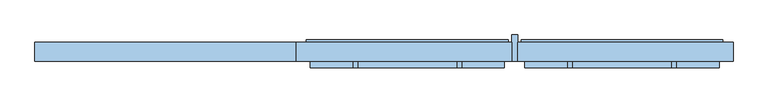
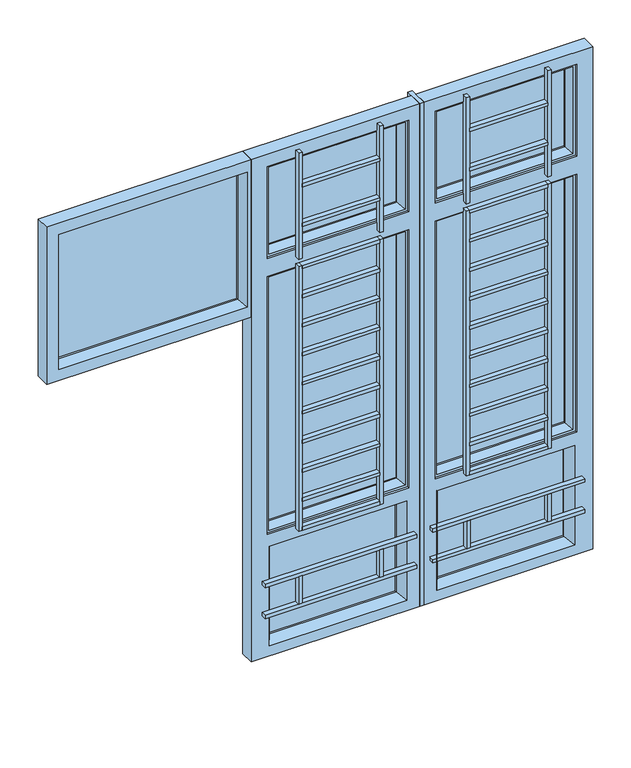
"""IFC4 building model written with IfcOpenShell, lengths in millimetres: window geometry, WDW-CSM-HAA-Type8 : Glass-1170+700+550H."""

from ifc_helpers import new_model, si_unit, frame, origin, place, context, project, spatial, polyline, outline, extrude, faceted_brep, source, transform, mapped, element, save


def window_dd2f97a1(model_context):
    return source(origin(), model_context, "Body", "SolidModel", [
        extrude(outline(polyline([(110.7500001, -33.0), (-155.7499999, -33.0), (-155.7499999, -15.0), (110.7500001, -15.0), (110.7500001, -33.0)])), frame((0.0, 0.0, 2414.1), z_axis=(0.0, 0.0, 1.0), x_axis=(1.0, 0.0, 0.0)), (0.0, 0.0, 1.0), 12.0),
        extrude(outline(polyline([(110.7500001, -33.0), (-155.7499999, -33.0), (-155.7499999, -15.0), (110.7500001, -15.0), (110.7500001, -33.0)])), frame((0.0, 0.0, 2271.1), z_axis=(0.0, 0.0, 1.0), x_axis=(1.0, 0.0, 0.0)), (0.0, 0.0, 1.0), 12.0),
        extrude(outline(polyline([(-155.7499999, -33.0), (-167.7499999, -33.0), (-167.7499999, -15.0), (-155.7499999, -15.0), (-155.7499999, -33.0)])), frame((0.0, 0.0, 2156.1), z_axis=(0.0, 0.0, 1.0), x_axis=(1.0, 0.0, 0.0)), (0.0, 0.0, 1.0), 385.0),
        extrude(outline(polyline([(122.7500001, -33.0), (110.7500001, -33.0), (110.7500001, -15.0), (122.7500001, -15.0), (122.7500001, -33.0)])), frame((0.0, 0.0, 2156.1), z_axis=(0.0, 0.0, 1.0), x_axis=(1.0, 0.0, 0.0)), (0.0, 0.0, 1.0), 385.0),
        extrude(outline(polyline([(110.7500001, -33.0), (-155.7499999, -33.0), (-155.7499999, -15.0), (110.7500001, -15.0), (110.7500001, -33.0)])), frame((0.0, 0.0, 2012.6666667), z_axis=(0.0, 0.0, 1.0), x_axis=(1.0, 0.0, 0.0)), (0.0, 0.0, 1.0), 12.0),
        extrude(outline(polyline([(110.7500001, -33.0), (-155.7499999, -33.0), (-155.7499999, -15.0), (110.7500001, -15.0), (110.7500001, -33.0)])), frame((0.0, 0.0, 1907.3333333), z_axis=(0.0, 0.0, 1.0), x_axis=(1.0, 0.0, 0.0)), (0.0, 0.0, 1.0), 12.0),
        extrude(outline(polyline([(110.7500001, -33.0), (-155.7499999, -33.0), (-155.7499999, -15.0), (110.7500001, -15.0), (110.7500001, -33.0)])), frame((0.0, 0.0, 1802.0), z_axis=(0.0, 0.0, 1.0), x_axis=(1.0, 0.0, 0.0)), (0.0, 0.0, 1.0), 12.0),
        extrude(outline(polyline([(110.7500001, -33.0), (-155.7499999, -33.0), (-155.7499999, -15.0), (110.7500001, -15.0), (110.7500001, -33.0)])), frame((0.0, 0.0, 1696.6666667), z_axis=(0.0, 0.0, 1.0), x_axis=(1.0, 0.0, 0.0)), (0.0, 0.0, 1.0), 12.0),
        extrude(outline(polyline([(110.7500001, -33.0), (-155.7499999, -33.0), (-155.7499999, -15.0), (110.7500001, -15.0), (110.7500001, -33.0)])), frame((0.0, 0.0, 1591.3333333), z_axis=(0.0, 0.0, 1.0), x_axis=(1.0, 0.0, 0.0)), (0.0, 0.0, 1.0), 12.0),
        extrude(outline(polyline([(110.7500001, -33.0), (-155.7499999, -33.0), (-155.7499999, -15.0), (110.7500001, -15.0), (110.7500001, -33.0)])), frame((0.0, 0.0, 1486.0), z_axis=(0.0, 0.0, 1.0), x_axis=(1.0, 0.0, 0.0)), (0.0, 0.0, 1.0), 12.0),
        extrude(outline(polyline([(110.7500001, -33.0), (-155.7499999, -33.0), (-155.7499999, -15.0), (110.7500001, -15.0), (110.7500001, -33.0)])), frame((0.0, 0.0, 1380.6666667), z_axis=(0.0, 0.0, 1.0), x_axis=(1.0, 0.0, 0.0)), (0.0, 0.0, 1.0), 12.0),
        extrude(outline(polyline([(110.7500001, -33.0), (-155.7499999, -33.0), (-155.7499999, -15.0), (110.7500001, -15.0), (110.7500001, -33.0)])), frame((0.0, 0.0, 1275.3333333), z_axis=(0.0, 0.0, 1.0), x_axis=(1.0, 0.0, 0.0)), (0.0, 0.0, 1.0), 12.0),
        extrude(outline(polyline([(110.7500001, -33.0), (-155.7499999, -33.0), (-155.7499999, -15.0), (110.7500001, -15.0), (110.7500001, -33.0)])), frame((0.0, 0.0, 2118.0), z_axis=(0.0, 0.0, 1.0), x_axis=(1.0, 0.0, 0.0)), (0.0, 0.0, 1.0), 12.0),
        extrude(outline(polyline([(110.7500001, -33.0), (-155.7499999, -33.0), (-155.7499999, -15.0), (110.7500001, -15.0), (110.7500001, -33.0)])), frame((0.0, 0.0, 1170.0), z_axis=(0.0, 0.0, 1.0), x_axis=(1.0, 0.0, 0.0)), (0.0, 0.0, 1.0), 12.0),
        extrude(outline(polyline([(-155.7499999, -33.0), (-167.7499999, -33.0), (-167.7499999, -15.0), (-155.7499999, -15.0), (-155.7499999, -33.0)])), frame((0.0, 0.0, 1170.0), z_axis=(0.0, 0.0, 1.0), x_axis=(1.0, 0.0, 0.0)), (0.0, 0.0, 1.0), 960.0),
        extrude(outline(polyline([(122.7500001, -33.0), (110.7500001, -33.0), (110.7500001, -15.0), (122.7500001, -15.0), (122.7500001, -33.0)])), frame((0.0, 0.0, 1170.0), z_axis=(0.0, 0.0, 1.0), x_axis=(1.0, 0.0, 0.0)), (0.0, 0.0, 1.0), 960.0),
        extrude(outline(polyline([(-464.2500001, -33.0), (-730.7500001, -33.0), (-730.7500001, -15.0), (-464.2500001, -15.0), (-464.2500001, -33.0)])), frame((0.0, 0.0, 2012.6666667), z_axis=(0.0, 0.0, 1.0), x_axis=(1.0, 0.0, 0.0)), (0.0, 0.0, 1.0), 12.0),
        extrude(outline(polyline([(-464.2500001, -33.0), (-730.7500001, -33.0), (-730.7500001, -15.0), (-464.2500001, -15.0), (-464.2500001, -33.0)])), frame((0.0, 0.0, 1907.3333333), z_axis=(0.0, 0.0, 1.0), x_axis=(1.0, 0.0, 0.0)), (0.0, 0.0, 1.0), 12.0),
        extrude(outline(polyline([(-464.2500001, -33.0), (-730.7500001, -33.0), (-730.7500001, -15.0), (-464.2500001, -15.0), (-464.2500001, -33.0)])), frame((0.0, 0.0, 1802.0), z_axis=(0.0, 0.0, 1.0), x_axis=(1.0, 0.0, 0.0)), (0.0, 0.0, 1.0), 12.0),
        extrude(outline(polyline([(-464.2500001, -33.0), (-730.7500001, -33.0), (-730.7500001, -15.0), (-464.2500001, -15.0), (-464.2500001, -33.0)])), frame((0.0, 0.0, 1696.6666667), z_axis=(0.0, 0.0, 1.0), x_axis=(1.0, 0.0, 0.0)), (0.0, 0.0, 1.0), 12.0),
        extrude(outline(polyline([(-464.2500001, -33.0), (-730.7500001, -33.0), (-730.7500001, -15.0), (-464.2500001, -15.0), (-464.2500001, -33.0)])), frame((0.0, 0.0, 1591.3333333), z_axis=(0.0, 0.0, 1.0), x_axis=(1.0, 0.0, 0.0)), (0.0, 0.0, 1.0), 12.0),
        extrude(outline(polyline([(-464.2500001, -33.0), (-730.7500001, -33.0), (-730.7500001, -15.0), (-464.2500001, -15.0), (-464.2500001, -33.0)])), frame((0.0, 0.0, 1486.0), z_axis=(0.0, 0.0, 1.0), x_axis=(1.0, 0.0, 0.0)), (0.0, 0.0, 1.0), 12.0),
        extrude(outline(polyline([(-464.2500001, -33.0), (-730.7500001, -33.0), (-730.7500001, -15.0), (-464.2500001, -15.0), (-464.2500001, -33.0)])), frame((0.0, 0.0, 1380.6666667), z_axis=(0.0, 0.0, 1.0), x_axis=(1.0, 0.0, 0.0)), (0.0, 0.0, 1.0), 12.0),
        extrude(outline(polyline([(-464.2500001, -33.0), (-730.7500001, -33.0), (-730.7500001, -15.0), (-464.2500001, -15.0), (-464.2500001, -33.0)])), frame((0.0, 0.0, 1275.3333333), z_axis=(0.0, 0.0, 1.0), x_axis=(1.0, 0.0, 0.0)), (0.0, 0.0, 1.0), 12.0),
        extrude(outline(polyline([(-464.2500001, -33.0), (-730.7500001, -33.0), (-730.7500001, -15.0), (-464.2500001, -15.0), (-464.2500001, -33.0)])), frame((0.0, 0.0, 2118.0), z_axis=(0.0, 0.0, 1.0), x_axis=(1.0, 0.0, 0.0)), (0.0, 0.0, 1.0), 12.0),
        extrude(outline(polyline([(-464.2500001, -33.0), (-730.7500001, -33.0), (-730.7500001, -15.0), (-464.2500001, -15.0), (-464.2500001, -33.0)])), frame((0.0, 0.0, 1170.0), z_axis=(0.0, 0.0, 1.0), x_axis=(1.0, 0.0, 0.0)), (0.0, 0.0, 1.0), 12.0),
        extrude(outline(polyline([(-730.7500001, -33.0), (-742.7500001, -33.0), (-742.7500001, -15.0), (-730.7500001, -15.0), (-730.7500001, -33.0)])), frame((0.0, 0.0, 1170.0), z_axis=(0.0, 0.0, 1.0), x_axis=(1.0, 0.0, 0.0)), (0.0, 0.0, 1.0), 960.0),
        extrude(outline(polyline([(-452.2500001, -33.0), (-464.2500001, -33.0), (-464.2500001, -15.0), (-452.2500001, -15.0), (-452.2500001, -33.0)])), frame((0.0, 0.0, 1170.0), z_axis=(0.0, 0.0, 1.0), x_axis=(1.0, 0.0, 0.0)), (0.0, 0.0, 1.0), 960.0),
        extrude(outline(polyline([(122.5000001, -33.0), (110.5000001, -33.0), (110.5000001, -15.0), (122.5000001, -15.0), (122.5000001, -33.0)])), frame((0.0, 0.0, 906.65), z_axis=(0.0, 0.0, 1.0), x_axis=(1.0, 0.0, 0.0)), (0.0, 0.0, 1.0), 99.5),
        extrude(outline(polyline([(-155.4999999, -33.0), (-167.4999999, -33.0), (-167.4999999, -15.0), (-155.4999999, -15.0), (-155.4999999, -33.0)])), frame((0.0, 0.0, 906.65), z_axis=(0.0, 0.0, 1.0), x_axis=(1.0, 0.0, 0.0)), (0.0, 0.0, 1.0), 99.5),
        extrude(outline(polyline([(237.5000001, -33.0), (-282.4999999, -33.0), (-282.4999999, -15.0), (237.5000001, -15.0), (237.5000001, -33.0)])), frame((0.0, 0.0, 894.65), z_axis=(0.0, 0.0, 1.0), x_axis=(1.0, 0.0, 0.0)), (0.0, 0.0, 1.0), 12.0),
        extrude(outline(polyline([(237.5000001, -33.0), (-282.4999999, -33.0), (-282.4999999, -15.0), (237.5000001, -15.0), (237.5000001, -33.0)])), frame((0.0, 0.0, 1006.15), z_axis=(0.0, 0.0, 1.0), x_axis=(1.0, 0.0, 0.0)), (0.0, 0.0, 1.0), 12.0),
        extrude(outline(polyline([(-464.2500001, -33.0), (-730.7500001, -33.0), (-730.7500001, -15.0), (-464.2500001, -15.0), (-464.2500001, -33.0)])), frame((0.0, 0.0, 2414.1), z_axis=(0.0, 0.0, 1.0), x_axis=(1.0, 0.0, 0.0)), (0.0, 0.0, 1.0), 12.0),
        extrude(outline(polyline([(-464.2500001, -33.0), (-730.7500001, -33.0), (-730.7500001, -15.0), (-464.2500001, -15.0), (-464.2500001, -33.0)])), frame((0.0, 0.0, 2271.1), z_axis=(0.0, 0.0, 1.0), x_axis=(1.0, 0.0, 0.0)), (0.0, 0.0, 1.0), 12.0),
        extrude(outline(polyline([(-730.7500001, -33.0), (-742.7500001, -33.0), (-742.7500001, -15.0), (-730.7500001, -15.0), (-730.7500001, -33.0)])), frame((0.0, 0.0, 2156.1), z_axis=(0.0, 0.0, 1.0), x_axis=(1.0, 0.0, 0.0)), (0.0, 0.0, 1.0), 385.0),
        extrude(outline(polyline([(-452.2500001, -33.0), (-464.2500001, -33.0), (-464.2500001, -15.0), (-452.2500001, -15.0), (-452.2500001, -33.0)])), frame((0.0, 0.0, 2156.1), z_axis=(0.0, 0.0, 1.0), x_axis=(1.0, 0.0, 0.0)), (0.0, 0.0, 1.0), 385.0),
        extrude(outline(polyline([(-452.5000001, -33.0), (-464.5000001, -33.0), (-464.5000001, -15.0), (-452.5000001, -15.0), (-452.5000001, -33.0)])), frame((0.0, 0.0, 906.65), z_axis=(0.0, 0.0, 1.0), x_axis=(1.0, 0.0, 0.0)), (0.0, 0.0, 1.0), 99.5),
        extrude(outline(polyline([(-730.5000001, -33.0), (-742.5000001, -33.0), (-742.5000001, -15.0), (-730.5000001, -15.0), (-730.5000001, -33.0)])), frame((0.0, 0.0, 906.65), z_axis=(0.0, 0.0, 1.0), x_axis=(1.0, 0.0, 0.0)), (0.0, 0.0, 1.0), 99.5),
        extrude(outline(polyline([(-337.5000001, -33.0), (-857.5000001, -33.0), (-857.5000001, -15.0), (-337.5000001, -15.0), (-337.5000001, -33.0)])), frame((0.0, 0.0, 894.65), z_axis=(0.0, 0.0, 1.0), x_axis=(1.0, 0.0, 0.0)), (0.0, 0.0, 1.0), 12.0),
        extrude(outline(polyline([(-337.5000001, -33.0), (-857.5000001, -33.0), (-857.5000001, -15.0), (-337.5000001, -15.0), (-337.5000001, -33.0)])), frame((0.0, 0.0, 1006.15), z_axis=(0.0, 0.0, 1.0), x_axis=(1.0, 0.0, 0.0)), (0.0, 0.0, 1.0), 12.0),
        faceted_brep([(-318.0, 35.0, 740.0), (-895.0, 35.0, 740.0), (-895.0, 35.0, 2560.0), (-318.0, 35.0, 2560.0), (-355.2999995, 35.0, 2514.7), (-839.7, 35.0, 2514.7), (-839.7, 35.0, 2182.5), (-355.2999995, 35.0, 2182.5), (-839.7, 35.0, 2117.5), (-839.7, 35.0, 1182.5), (-355.3000001, 35.0, 1182.5), (-355.3000001, 35.0, 2117.5), (-814.4, 35.0, 795.3), (-380.6, 35.0, 795.3), (-380.6, 35.0, 1117.5), (-814.4, 35.0, 1117.5), (-318.0, -15.0, 740.0), (-318.0, -15.0, 2560.0), (-895.0, -15.0, 2560.0), (-895.0, -15.0, 740.0), (-355.2999995, -15.0, 2514.7), (-355.2999995, -15.0, 2182.5), (-839.7, -15.0, 2182.5), (-839.7, -15.0, 2514.7), (-839.7, -15.0, 2117.5), (-355.3000001, -15.0, 2117.5), (-355.3000001, -15.0, 1182.5), (-839.7, -15.0, 1182.5), (-833.3, -15.0, 776.4), (-833.3, -15.0, 1136.4), (-361.7, -15.0, 1136.4), (-361.7, -15.0, 776.4), (-814.4, 16.0, 795.3), (-380.6, 16.0, 795.3), (-380.6, 16.0, 1117.5), (-814.4, 16.0, 1117.5)], [[[0, 1, 2, 3], [4, 5, 6, 7], [8, 9, 10, 11], [12, 13, 14, 15]], [[16, 17, 18, 19], [20, 21, 22, 23], [24, 25, 26, 27], [28, 29, 30, 31]], [[1, 0, 16, 19]], [[2, 1, 19, 18]], [[3, 2, 18, 17]], [[0, 3, 17, 16]], [[5, 4, 20, 23]], [[6, 5, 23, 22]], [[7, 6, 22, 21]], [[4, 7, 21, 20]], [[9, 8, 24, 27]], [[10, 9, 27, 26]], [[11, 10, 26, 25]], [[8, 11, 25, 24]], [[13, 12, 32, 33]], [[14, 13, 33, 34]], [[15, 14, 34, 35]], [[12, 15, 35, 32]], [[28, 32, 35, 29]], [[32, 28, 31, 33]], [[33, 31, 30, 34]], [[29, 35, 34, 30]]]),
        faceted_brep([(-302.0, 35.0, 740.0), (-302.0, 35.0, 2560.0), (275.0, 35.0, 2560.0), (275.0, 35.0, 740.0), (-264.7000005, 35.0, 2514.7), (-264.7000005, 35.0, 2182.5), (219.7, 35.0, 2182.5), (219.7, 35.0, 2514.7), (219.7, 35.0, 2117.5), (-264.6999999, 35.0, 2117.5), (-264.6999999, 35.0, 1182.5), (219.7, 35.0, 1182.5), (194.4, 35.0, 795.3), (194.4, 35.0, 1117.5), (-239.4, 35.0, 1117.5), (-239.4, 35.0, 795.3), (-302.0, -15.0, 740.0), (275.0, -15.0, 740.0), (275.0, -15.0, 2560.0), (-302.0, -15.0, 2560.0), (-264.7000005, -15.0, 2514.7), (219.7, -15.0, 2514.7), (219.7, -15.0, 2182.5), (-264.7000005, -15.0, 2182.5), (219.7, -15.0, 2117.5), (219.7, -15.0, 1182.5), (-264.6999999, -15.0, 1182.5), (-264.6999999, -15.0, 2117.5), (213.3, -15.0, 1136.4), (213.3, -15.0, 776.4), (-258.3, -15.0, 776.4), (-258.3, -15.0, 1136.4), (194.4, 16.0, 795.3), (194.4, 16.0, 1117.5), (-239.4, 16.0, 1117.5), (-239.4, 16.0, 795.3)], [[[0, 1, 2, 3], [4, 5, 6, 7], [8, 9, 10, 11], [12, 13, 14, 15]], [[16, 17, 18, 19], [20, 21, 22, 23], [24, 25, 26, 27], [28, 29, 30, 31]], [[1, 0, 16, 19]], [[2, 1, 19, 18]], [[3, 2, 18, 17]], [[0, 3, 17, 16]], [[5, 4, 20, 23]], [[6, 5, 23, 22]], [[7, 6, 22, 21]], [[4, 7, 21, 20]], [[9, 8, 24, 27]], [[10, 9, 27, 26]], [[11, 10, 26, 25]], [[8, 11, 25, 24]], [[13, 12, 32, 33]], [[14, 13, 33, 34]], [[15, 14, 34, 35]], [[12, 15, 35, 32]], [[32, 29, 28, 33]], [[29, 32, 35, 30]], [[30, 35, 34, 31]], [[33, 28, 31, 34]]]),
        extrude(outline(polyline([(-245.5999999, 33.0), (200.6, 33.0), (200.6, 27.0), (-245.5999999, 27.0), (-245.5999999, 33.0)])), frame((0.0, 0.0, 1201.6), z_axis=(0.0, 0.0, 1.0), x_axis=(1.0, 0.0, 0.0)), (0.0, 0.0, 1.0), 896.8),
        extrude(outline(polyline([(-820.6, 33.0), (-374.4000001, 33.0), (-374.4000001, 27.0), (-820.6, 27.0), (-820.6, 33.0)])), frame((0.0, 0.0, 1201.6), z_axis=(0.0, 0.0, 1.0), x_axis=(1.0, 0.0, 0.0)), (0.0, 0.0, 1.0), 896.8),
        extrude(outline(polyline([(-245.6000005, 33.0), (200.6, 33.0), (200.6, 27.0), (-245.6000005, 27.0), (-245.6000005, 33.0)])), frame((0.0, 0.0, 2201.6), z_axis=(0.0, 0.0, 1.0), x_axis=(1.0, 0.0, 0.0)), (0.0, 0.0, 1.0), 294.0),
        extrude(outline(polyline([(-820.5999995, 33.0), (-374.4, 33.0), (-374.4, 27.0), (-820.5999995, 27.0), (-820.5999995, 33.0)])), frame((0.0, 0.0, 2201.6000005), z_axis=(0.0, 0.0, 1.0), x_axis=(1.0, 0.0, 0.0)), (0.0, 0.0, 1.0), 293.999999),
        faceted_brep([(-327.1999995, 41.5, 2542.8), (-327.1999995, 35.0, 2542.8), (-327.1999995, 35.0, 2154.4), (-327.1999995, 41.5, 2154.4), (-374.4, 21.5, 2495.5999995), (-374.4, 41.5, 2495.5999995), (-374.4, 41.5, 2201.6000005), (-374.4, 21.5, 2201.6000005), (-363.8999995, -8.5, 2506.1), (-363.8999995, -8.5, 2191.1), (-355.2999995, 35.0, 2514.7), (-355.2999995, -8.5, 2514.7), (-355.2999995, -8.5, 2182.5), (-355.2999995, 35.0, 2182.5), (-867.8, 35.0, 2154.4), (-867.8, 41.5, 2154.4), (-820.5999995, 41.5, 2201.6000005), (-820.5999995, 21.5, 2201.6000005), (-831.1, -8.5, 2191.1), (-839.7, -8.5, 2182.5), (-839.7, 35.0, 2182.5), (-867.8, 35.0, 2542.8), (-867.8, 41.5, 2542.8), (-820.5999995, 41.5, 2495.5999995), (-820.5999995, 21.5, 2495.5999995), (-831.1, -8.5, 2506.1), (-839.7, -8.5, 2514.7), (-839.7, 35.0, 2514.7)], [[[0, 1, 2, 3]], [[4, 5, 6, 7]], [[8, 4, 7, 9]], [[10, 11, 12, 13]], [[3, 2, 14, 15]], [[7, 6, 16, 17]], [[9, 7, 17, 18]], [[13, 12, 19, 20]], [[15, 14, 21, 22]], [[0, 3, 15, 22], [23, 16, 6, 5]], [[17, 16, 23, 24]], [[18, 17, 24, 25]], [[26, 19, 12, 11], [8, 9, 18, 25]], [[20, 19, 26, 27]], [[21, 14, 2, 1], [10, 13, 20, 27]], [[22, 21, 1, 0]], [[24, 23, 5, 4]], [[25, 24, 4, 8]], [[27, 26, 11, 10]]]),
        faceted_brep([(-327.2000001, 41.5, 2145.6), (-327.2000001, 35.0, 2145.6), (-327.2000001, 35.0, 1154.4), (-327.2000001, 41.5, 1154.4), (-374.4000001, 21.5, 2098.4), (-374.4000001, 41.5, 2098.4), (-374.4000001, 41.5, 1201.6), (-374.4000001, 21.5, 1201.6), (-363.9000001, -8.5, 2108.9), (-363.9000001, -8.5, 1191.1), (-355.3000001, 35.0, 2117.5), (-355.3000001, -8.5, 2117.5), (-355.3000001, -8.5, 1182.5), (-355.3000001, 35.0, 1182.5), (-867.8, 35.0, 1154.4), (-867.8, 41.5, 1154.4), (-820.6, 41.5, 1201.6), (-820.6, 21.5, 1201.6), (-831.1, -8.5, 1191.1), (-839.7, -8.5, 1182.5), (-839.7, 35.0, 1182.5), (-867.8, 35.0, 2145.6), (-867.8, 41.5, 2145.6), (-820.6, 41.5, 2098.4), (-820.6, 21.5, 2098.4), (-831.1, -8.5, 2108.9), (-839.7, -8.5, 2117.5), (-839.7, 35.0, 2117.5)], [[[0, 1, 2, 3]], [[4, 5, 6, 7]], [[8, 4, 7, 9]], [[10, 11, 12, 13]], [[3, 2, 14, 15]], [[7, 6, 16, 17]], [[9, 7, 17, 18]], [[13, 12, 19, 20]], [[15, 14, 21, 22]], [[17, 16, 23, 24]], [[18, 17, 24, 25]], [[20, 19, 26, 27]], [[22, 21, 1, 0]], [[3, 15, 22, 0], [5, 23, 16, 6]], [[24, 23, 5, 4]], [[25, 24, 4, 8]], [[11, 26, 19, 12], [9, 18, 25, 8]], [[27, 26, 11, 10]], [[1, 21, 14, 2], [13, 20, 27, 10]]]),
        faceted_brep([(247.8, 41.5, 2542.8), (247.8, 35.0, 2542.8), (247.8, 35.0, 2154.4), (247.8, 41.5, 2154.4), (200.6, 21.5, 2495.6), (200.6, 41.5, 2495.6), (200.6, 41.5, 2201.6), (200.6, 21.5, 2201.6), (211.1, -8.5, 2506.1), (211.1, -8.5, 2191.1), (219.7, 35.0, 2514.7), (219.7, -8.5, 2514.7), (219.7, -8.5, 2182.5), (219.7, 35.0, 2182.5), (-292.8000005, 35.0, 2154.4), (-292.8000005, 41.5, 2154.4), (-245.6000005, 41.5, 2201.6), (-245.6000005, 21.5, 2201.6), (-256.1000005, -8.5, 2191.1), (-264.7000005, -8.5, 2182.5), (-264.7000005, 35.0, 2182.5), (-292.8000005, 35.0, 2542.8), (-292.8000005, 41.5, 2542.8), (-245.6000005, 41.5, 2495.6), (-245.6000005, 21.5, 2495.6), (-256.1000005, -8.5, 2506.1), (-264.7000005, -8.5, 2514.7), (-264.7000005, 35.0, 2514.7)], [[[0, 1, 2, 3]], [[4, 5, 6, 7]], [[8, 4, 7, 9]], [[10, 11, 12, 13]], [[3, 2, 14, 15]], [[7, 6, 16, 17]], [[9, 7, 17, 18]], [[13, 12, 19, 20]], [[15, 14, 21, 22]], [[17, 16, 23, 24]], [[18, 17, 24, 25]], [[20, 19, 26, 27]], [[22, 21, 1, 0]], [[3, 15, 22, 0], [5, 23, 16, 6]], [[24, 23, 5, 4]], [[25, 24, 4, 8]], [[11, 26, 19, 12], [9, 18, 25, 8]], [[27, 26, 11, 10]], [[1, 21, 14, 2], [13, 20, 27, 10]]]),
        faceted_brep([(247.8, 41.5, 2145.6), (247.8, 35.0, 2145.6), (247.8, 35.0, 1154.4), (247.8, 41.5, 1154.4), (200.6, 21.5, 2098.4), (200.6, 41.5, 2098.4), (200.6, 41.5, 1201.6), (200.6, 21.5, 1201.6), (211.1, -8.5, 2108.9), (211.1, -8.5, 1191.1), (219.7, 35.0, 2117.5), (219.7, -8.5, 2117.5), (219.7, -8.5, 1182.5), (219.7, 35.0, 1182.5), (-292.7999999, 35.0, 1154.4), (-292.7999999, 41.5, 1154.4), (-245.5999999, 41.5, 1201.6), (-245.5999999, 21.5, 1201.6), (-256.0999999, -8.5, 1191.1), (-264.6999999, -8.5, 1182.5), (-264.6999999, 35.0, 1182.5), (-292.7999999, 35.0, 2145.6), (-292.7999999, 41.5, 2145.6), (-245.5999999, 41.5, 2098.4), (-245.5999999, 21.5, 2098.4), (-256.0999999, -8.5, 2108.9), (-264.6999999, -8.5, 2117.5), (-264.6999999, 35.0, 2117.5)], [[[0, 1, 2, 3]], [[4, 5, 6, 7]], [[8, 4, 7, 9]], [[10, 11, 12, 13]], [[3, 2, 14, 15]], [[7, 6, 16, 17]], [[9, 7, 17, 18]], [[13, 12, 19, 20]], [[15, 14, 21, 22]], [[0, 3, 15, 22], [23, 16, 6, 5]], [[17, 16, 23, 24]], [[18, 17, 24, 25]], [[26, 19, 12, 11], [8, 9, 18, 25]], [[20, 19, 26, 27]], [[21, 14, 2, 1], [10, 13, 20, 27]], [[22, 21, 1, 0]], [[24, 23, 5, 4]], [[25, 24, 4, 8]], [[27, 26, 11, 10]]]),
        faceted_brep([(-1595.0, 35.0, 2560.0), (-895.0, 35.0, 2560.0), (-895.0, 35.0, 1990.0), (-1595.0, 35.0, 1990.0), (-1539.7, 35.0, 2504.7), (-1539.7, 35.0, 2045.3), (-923.3, 35.0, 2045.3), (-923.3, 35.0, 2504.7), (-895.0, -15.0, 2560.0), (-895.0, -15.0, 1990.0), (-1595.0, -15.0, 1990.0), (-1595.0, -15.0, 2560.0), (-909.0097561, -15.0, 2518.9902439), (-909.0097561, -15.0, 2031.0097561), (-1553.9902439, -15.0, 2031.0097561), (-1553.9902439, -15.0, 2518.9902439), (-1539.7, 16.0, 2504.7), (-1539.7, 16.0, 2045.3), (-923.3, 16.0, 2045.3), (-923.3, 16.0, 2504.7)], [[[0, 1, 2, 3], [4, 5, 6, 7]], [[2, 1, 8, 9]], [[3, 2, 9, 10]], [[0, 3, 10, 11]], [[11, 10, 9, 8], [12, 13, 14, 15]], [[1, 0, 11, 8]], [[5, 4, 16, 17]], [[7, 6, 18, 19]], [[4, 7, 19, 16]], [[18, 13, 12, 19]], [[14, 17, 16, 15]], [[15, 16, 19, 12]], [[6, 5, 17, 18]], [[13, 18, 17, 14]]]),
        extrude(outline(polyline([(-239.4, 27.5), (194.4, 27.5), (194.4, 21.5), (-239.4, 21.5), (-239.4, 27.5)])), frame((0.0, 0.0, 795.3), z_axis=(0.0, 0.0, 1.0), x_axis=(1.0, 0.0, 0.0)), (0.0, 0.0, 1.0), 322.2),
        extrude(outline(polyline([(-814.4, 27.5), (-380.6, 27.5), (-380.6, 21.5), (-814.4, 21.5), (-814.4, 27.5)])), frame((0.0, 0.0, 795.3), z_axis=(0.0, 0.0, 1.0), x_axis=(1.0, 0.0, 0.0)), (0.0, 0.0, 1.0), 322.2),
        extrude(outline(polyline([(-1539.7, 27.5), (-923.3, 27.5), (-923.3, 21.5), (-1539.7, 21.5), (-1539.7, 27.5)])), frame((0.0, 0.0, 2045.3), z_axis=(0.0, 0.0, 1.0), x_axis=(1.0, 0.0, 0.0)), (0.0, 0.0, 1.0), 459.4),
        extrude(outline(polyline([(-318.0, 55.0), (-302.0, 55.0), (-302.0, -15.0), (-318.0, -15.0), (-318.0, 55.0)])), frame((0.0, 0.0, 740.0), z_axis=(0.0, 0.0, 1.0), x_axis=(1.0, 0.0, 0.0)), (0.0, 0.0, 1.0), 1820.0),
    ])


if __name__ == "__main__":
    model = new_model("IFC4")
    model_context = context("Model", 3, world=origin())
    ifc_project = project(units=[si_unit("LENGTHUNIT", "METRE", prefix="MILLI")], contexts=[model_context])
    site = spatial("IfcSite", under=ifc_project)
    building = spatial("IfcBuilding", under=site)
    placement = place(None, origin())
    window_shape = window_dd2f97a1(model_context)
    element("IfcWindow", 1, ObjectType="WDW-CSM-HAA-Type8 : Glass-1170+700+550H", at=placement, inside=building, context=model_context, shape_type="MappedRepresentation", body=[
        mapped(window_shape, transform((0.0, 0.0, 0.0), x_axis=(1.0, 0.0, 0.0), y_axis=(0.0, 1.0, 0.0), z_axis=(0.0, 0.0, 1.0))),
    ])
    save(model, "model.ifc")
